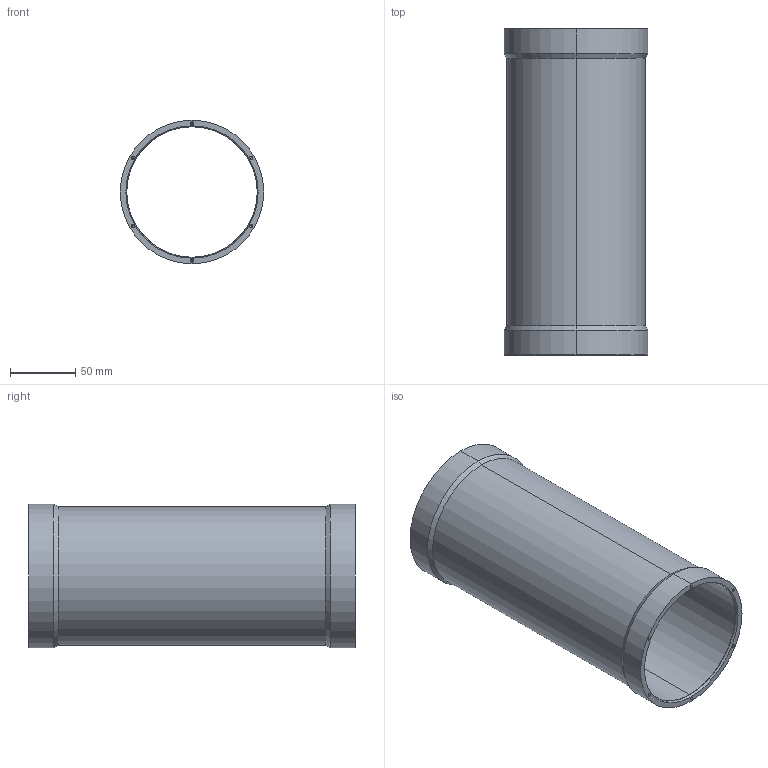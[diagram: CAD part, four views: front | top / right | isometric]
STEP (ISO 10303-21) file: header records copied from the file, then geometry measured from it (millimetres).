
FILE_DESCRIPTION (( 'STEP AP214' ), '1' );
FILE_NAME ('110臏磁踢組250.STEP', '2022-04-13T09:02:56', ( '' ), ( '' ), 'SwSTEP 2.0', 'SolidWorks 2020', '' );
FILE_SCHEMA (( 'AUTOMOTIVE_DESIGN' ));
Length unit declared in the file: millimetre
Products named in the file (1): 110臏磁踢組250
Bounding box: 110 x 250 x 110 mm (x, y, z)
Volume: 269907.9 mm3; surface area: 166295.9 mm2
Topology: 1 solids, 1 shells, 70 faces, 164 edges, 84 vertices
Faces by surface type: cone 32, cylinder 32, torus 4, plane 2
Entity records: 2118 total; most frequent: DIRECTION 358, CARTESIAN_POINT 295, ORIENTED_EDGE 280, AXIS2_PLACEMENT_3D 147, EDGE_CURVE 140, VERTEX_POINT 84, EDGE_LOOP 84, CIRCLE 76
